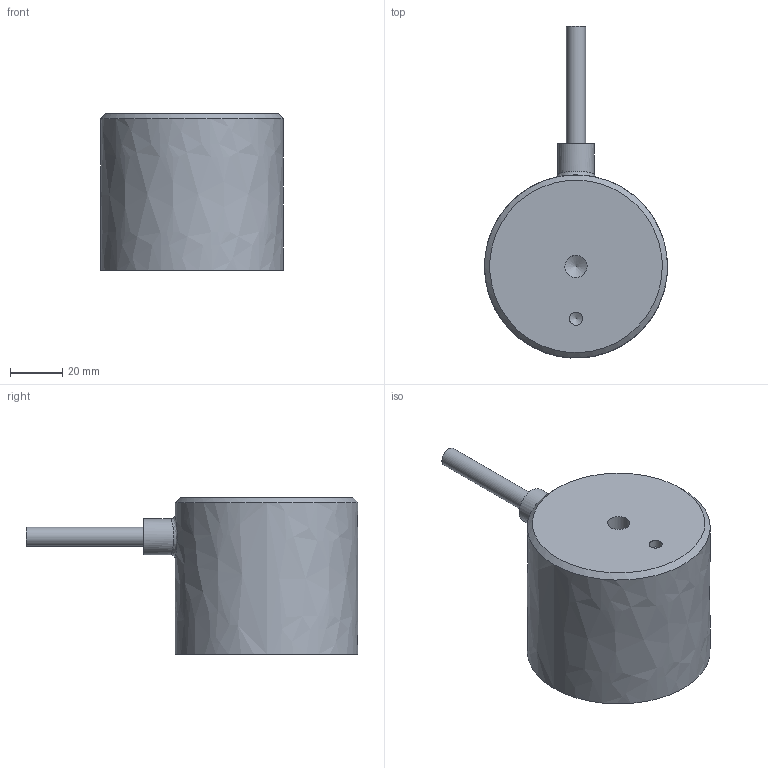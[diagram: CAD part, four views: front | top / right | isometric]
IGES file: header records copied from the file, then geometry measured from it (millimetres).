
Global section: file name: EMH-1-70Dx60H-S; native system: unknown; preprocessor: unknown; author: unknown; organization: unknown; date: 20231215.124612; units: millimetre
Bounding box: 70 x 126.96 x 60 mm (x, y, z)
Volume: 232536.8 mm3; surface area: 22918.5 mm2
Topology: 2 solids, 2 shells, 18 faces, 37 edges, 26 vertices
Faces by surface type: bspline 18
